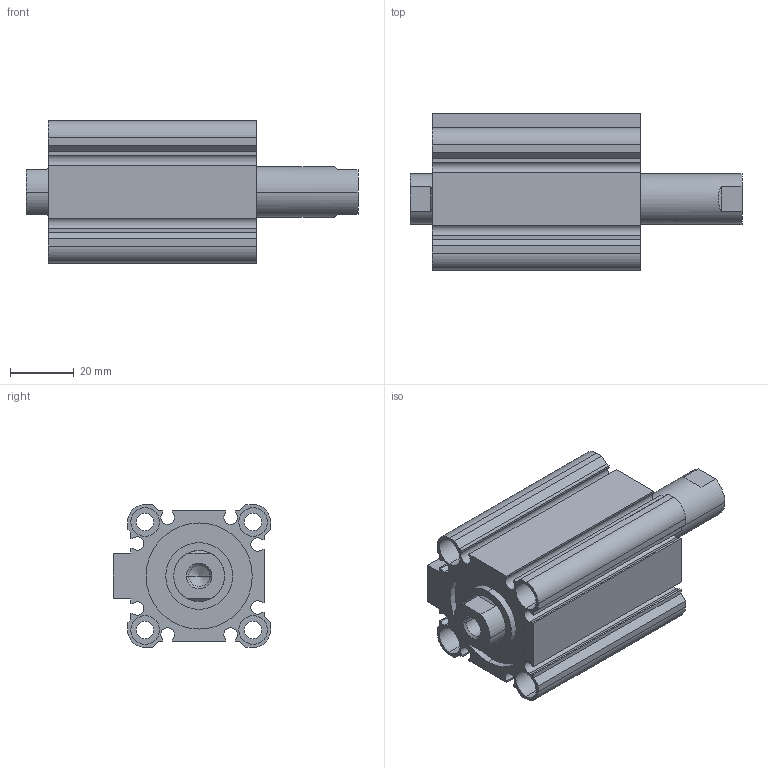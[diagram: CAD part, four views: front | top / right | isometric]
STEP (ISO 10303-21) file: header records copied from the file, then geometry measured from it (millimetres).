
FILE_DESCRIPTION (( 'STEP AP203' ), '1' );
FILE_NAME ('CCMB32-25F-P.STEP', '2020-08-05T11:13:57', ( '' ), ( '' ), 'SwSTEP 2.0', 'SolidWorks 2019', '' );
FILE_SCHEMA (( 'CONFIG_CONTROL_DESIGN' ));
Length unit declared in the file: millimetre
Products named in the file (1): CCMB32-25F-P
Bounding box: 104.5 x 49.5 x 45 mm (x, y, z)
Volume: 96017.9 mm3; surface area: 40855.3 mm2
Topology: 2 solids, 2 shells, 164 faces, 414 edges, 270 vertices
Faces by surface type: plane 78, cylinder 74, cone 12
Entity records: 5029 total; most frequent: DIRECTION 896, CARTESIAN_POINT 857, ORIENTED_EDGE 820, EDGE_CURVE 410, AXIS2_PLACEMENT_3D 325, VERTEX_POINT 270, VECTOR 246, LINE 246
